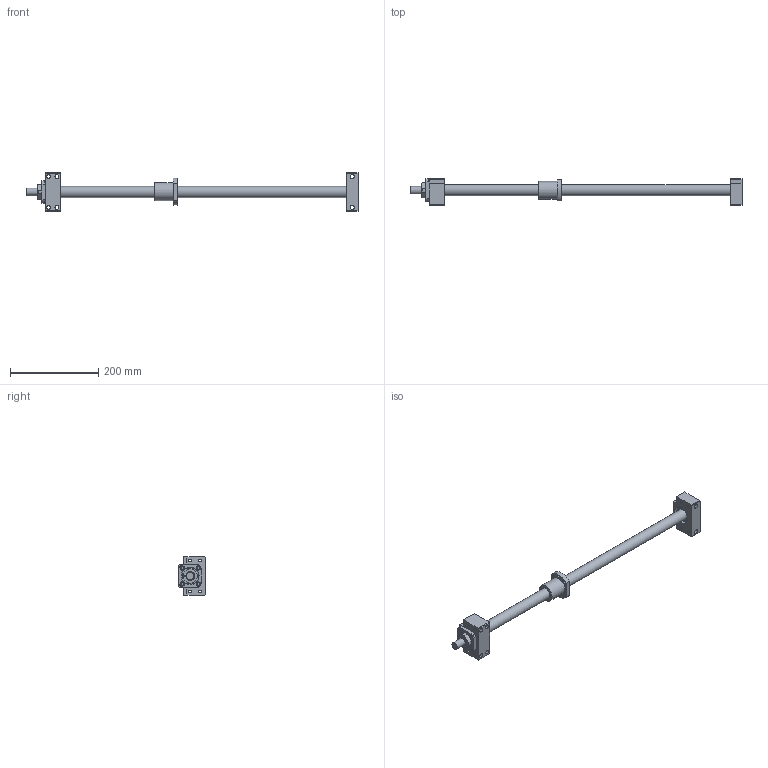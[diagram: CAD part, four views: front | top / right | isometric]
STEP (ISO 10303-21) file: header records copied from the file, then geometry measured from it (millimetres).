
FILE_DESCRIPTION(/* description */ ('','CAx-IF Rec.Pracs.---Representation and Presentation of Product Manufacturing Information (PMI)---4.0---2014-10-13'),/* implementation_level */ '2;1');
FILE_NAME(/* name */ 'F2RFU-2505-0750-BF20-BK20ASM v1.step',/* time_stamp */ '2024-12-17T10:40:50-05:00',/* author */ (''),/* organization */ (''),/* preprocessor_version */ 'ST-DEVELOPER v20',/* originating_system */ 'Autodesk Translation Framework v13.20.0.188',/* authorisation */ '');
FILE_SCHEMA (('AP242_MANAGED_MODEL_BASED_3D_ENGINEERING_MIM_LF { 1 0 10303 442 1 1 4 }'));
Length unit declared in the file: millimetre
Products named in the file (12): F2RFU-2505-0750-BF20-BK20ASM; 25xx_750; Screw25; BF20EndMach; BK20EndMach; BK20Yes; BK 20; BK 20collar; BF20; BF 20 Part1; BF 20 Part2; 2505 Ball Nut
Assembly tree (11 placements, depth 3):
  F2RFU-2505-0750-BF20-BK20ASM
    25xx_750
      Screw25
      BF20EndMach
      BK20EndMach
    BK20Yes
      BK 20
      BK 20collar
    BF20
      BF 20 Part1
      BF 20 Part2
    2505 Ball Nut
Bounding box: 751 x 60 x 88 mm (x, y, z)
Volume: 654008.8 mm3; surface area: 146336.2 mm2
Topology: 8 solids, 9 shells, 243 faces, 615 edges, 417 vertices
Faces by surface type: plane 133, cylinder 86, cone 19, torus 5
Full cylindrical faces by diameter (mm): 4 x2, 5 x1, 6.6 x26, 8.5 x4, 9 x6, 9.5 x4, 14 x6, 17 x1, 18.376 x1, 19 x1, 19.884 x1, 20 x5, 25 x1, 26 x2, 27.4 x2, 28 x1, 28.64 x2, 34.46 x2, 38 x2, 38.1 x1, 38.36 x2, 40 x1, 42 x2
Entity records: 8639 total; most frequent: CARTESIAN_POINT 2319, ORIENTED_EDGE 1230, DIRECTION 1221, EDGE_CURVE 615, AXIS2_PLACEMENT_3D 450, VERTEX_POINT 417, EDGE_LOOP 346, LINE 321
